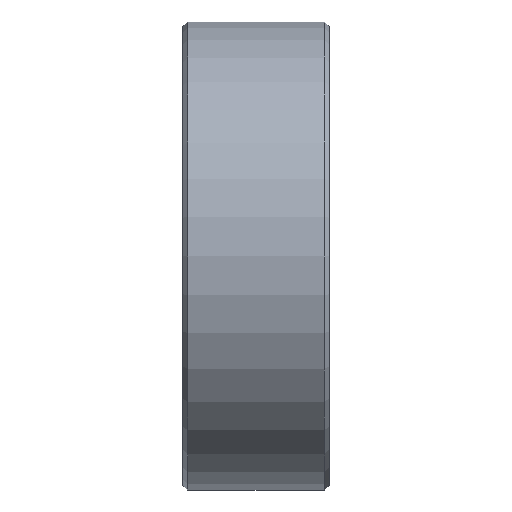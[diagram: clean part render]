
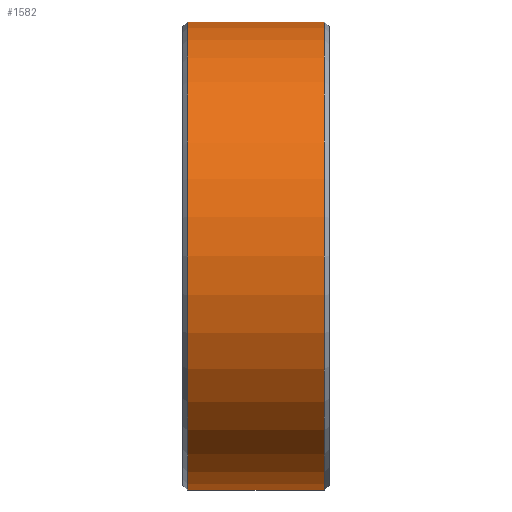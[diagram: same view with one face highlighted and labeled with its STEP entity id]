
A CAD part, front view. The second image highlights one B-rep face of the part: STEP entity #1582.
In plain terms, the highlighted cylindrical face has radius 24 mm (diameter 48 mm), a partial arc.
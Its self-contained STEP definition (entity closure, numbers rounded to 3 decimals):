
#104=LINE('',#2128,#178);
#105=LINE('',#2132,#179);
#178=VECTOR('',#1797,1000.);
#179=VECTOR('',#1800,1000.);
#252=ORIENTED_EDGE('',*,*,#544,.T.);
#253=ORIENTED_EDGE('',*,*,#545,.T.);
#254=ORIENTED_EDGE('',*,*,#546,.F.);
#255=ORIENTED_EDGE('',*,*,#547,.T.);
#544=EDGE_CURVE('',#690,#691,#794,.T.);
#545=EDGE_CURVE('',#691,#692,#104,.T.);
#546=EDGE_CURVE('',#693,#692,#795,.T.);
#547=EDGE_CURVE('',#693,#690,#105,.F.);
#690=VERTEX_POINT('',#2126);
#691=VERTEX_POINT('',#2127);
#692=VERTEX_POINT('',#2129);
#693=VERTEX_POINT('',#2131);
#794=CIRCLE('',#1664,24.);
#795=CIRCLE('',#1665,24.);
#848=EDGE_LOOP('',(#252,#253,#254,#255));
#946=FACE_BOUND('',#848,.T.);
#1048=CYLINDRICAL_SURFACE('',#1663,24.);
#1582=ADVANCED_FACE('',(#946),#1048,.T.);
#1663=AXIS2_PLACEMENT_3D('',#2124,#1793,#1794);
#1664=AXIS2_PLACEMENT_3D('',#2125,#1795,#1796);
#1665=AXIS2_PLACEMENT_3D('',#2130,#1798,#1799);
#1793=DIRECTION('',(1.,0.,0.));
#1794=DIRECTION('',(0.,0.,-1.));
#1795=DIRECTION('',(1.,0.,0.));
#1796=DIRECTION('',(0.,0.,-1.));
#1797=DIRECTION('',(1.,0.,0.));
#1798=DIRECTION('',(1.,0.,0.));
#1799=DIRECTION('',(0.,0.,-1.));
#1800=DIRECTION('',(1.,0.,0.));
#2124=CARTESIAN_POINT('',(7.5,0.,0.));
#2125=CARTESIAN_POINT('',(-7.,0.,0.));
#2126=CARTESIAN_POINT('',(-7.,-1.5,23.953));
#2127=CARTESIAN_POINT('',(-7.,-1.5,-23.953));
#2128=CARTESIAN_POINT('',(7.5,-1.5,-23.953));
#2129=CARTESIAN_POINT('',(7.,-1.5,-23.953));
#2130=CARTESIAN_POINT('',(7.,0.,0.));
#2131=CARTESIAN_POINT('',(7.,-1.5,23.953));
#2132=CARTESIAN_POINT('',(7.5,-1.5,23.953));
